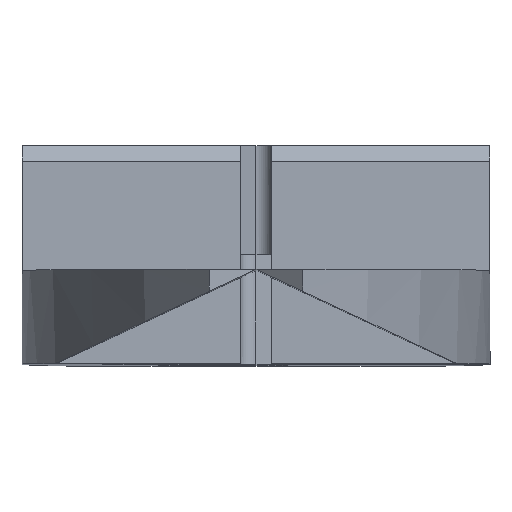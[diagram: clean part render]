
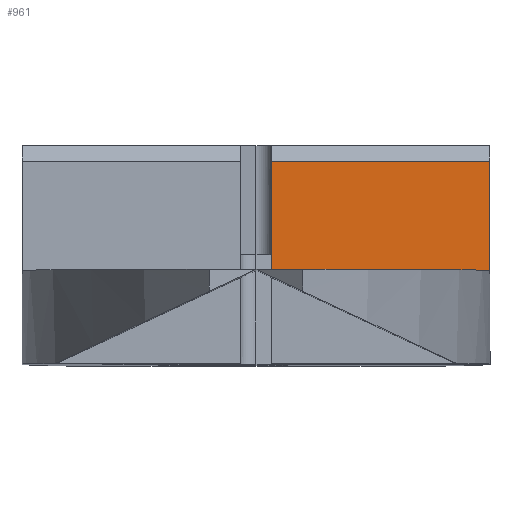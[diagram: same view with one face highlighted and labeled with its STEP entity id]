
A CAD part, top view. The second image highlights one B-rep face of the part: STEP entity #961.
In plain terms, the highlighted planar face has unit normal (0, 0, 1).
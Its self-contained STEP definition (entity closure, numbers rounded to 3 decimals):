
#104 = EDGE_LOOP ( 'NONE', ( #1170, #1501, #1456, #948 ) ) ;
#133 = CARTESIAN_POINT ( 'NONE',  ( 0.5, 3., 11. ) ) ;
#196 = CARTESIAN_POINT ( 'NONE',  ( 7.5, 3.5, 11. ) ) ;
#223 = FACE_OUTER_BOUND ( 'NONE', #104, .T. ) ;
#231 = DIRECTION ( 'NONE',  ( -1., 0., 0. ) ) ;
#263 = CARTESIAN_POINT ( 'NONE',  ( 0.5, 4.75, 11. ) ) ;
#282 = CARTESIAN_POINT ( 'NONE',  ( 7.5, 6.5, 11. ) ) ;
#306 = PLANE ( 'NONE',  #2131 ) ;
#400 = VERTEX_POINT ( 'NONE', #2100 ) ;
#555 = CARTESIAN_POINT ( 'NONE',  ( 4., 6.5, 11. ) ) ;
#597 = EDGE_CURVE ( 'NONE', #1819, #2541, #1422, .T. ) ;
#655 = DIRECTION ( 'NONE',  ( 0., -1., 0. ) ) ;
#809 = DIRECTION ( 'NONE',  ( 1., 0., 0. ) ) ;
#948 = ORIENTED_EDGE ( 'NONE', *, *, #2947, .F. ) ;
#961 = ADVANCED_FACE ( 'NONE', ( #223 ), #306, .T. ) ;
#1017 = DIRECTION ( 'NONE',  ( 0., 0., 1. ) ) ;
#1170 = ORIENTED_EDGE ( 'NONE', *, *, #1816, .T. ) ;
#1236 = VECTOR ( 'NONE', #231, 1000. ) ;
#1298 = CARTESIAN_POINT ( 'NONE',  ( 0.5, 3., 11. ) ) ;
#1352 = CARTESIAN_POINT ( 'NONE',  ( 7.5, 3., 11. ) ) ;
#1393 = VECTOR ( 'NONE', #1533, 1000. ) ;
#1422 = LINE ( 'NONE', #196, #1999 ) ;
#1456 = ORIENTED_EDGE ( 'NONE', *, *, #597, .F. ) ;
#1501 = ORIENTED_EDGE ( 'NONE', *, *, #1801, .F. ) ;
#1533 = DIRECTION ( 'NONE',  ( 1., 0., 0. ) ) ;
#1801 = EDGE_CURVE ( 'NONE', #2541, #2053, #2685, .T. ) ;
#1816 = EDGE_CURVE ( 'NONE', #400, #2053, #3080, .T. ) ;
#1819 = VERTEX_POINT ( 'NONE', #282 ) ;
#1999 = VECTOR ( 'NONE', #655, 1000. ) ;
#2053 = VERTEX_POINT ( 'NONE', #133 ) ;
#2100 = CARTESIAN_POINT ( 'NONE',  ( 0.5, 6.5, 11. ) ) ;
#2131 = AXIS2_PLACEMENT_3D ( 'NONE', #1298, #1017, #809 ) ;
#2322 = CARTESIAN_POINT ( 'NONE',  ( 3.75, 3., 11. ) ) ;
#2468 = VECTOR ( 'NONE', #2922, 1000. ) ;
#2541 = VERTEX_POINT ( 'NONE', #1352 ) ;
#2685 = LINE ( 'NONE', #2322, #1236 ) ;
#2696 = LINE ( 'NONE', #555, #1393 ) ;
#2922 = DIRECTION ( 'NONE',  ( 0., -1., 0. ) ) ;
#2947 = EDGE_CURVE ( 'NONE', #400, #1819, #2696, .T. ) ;
#3080 = LINE ( 'NONE', #263, #2468 ) ;
